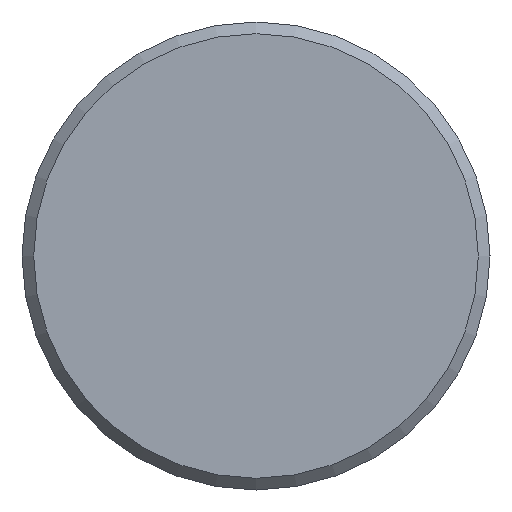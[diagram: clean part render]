
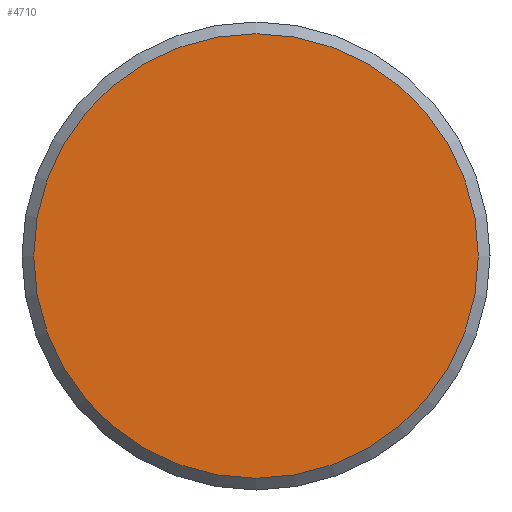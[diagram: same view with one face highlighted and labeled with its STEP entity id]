
A CAD part, left-side view. The second image highlights one B-rep face of the part: STEP entity #4710.
In plain terms, the highlighted planar face has unit normal (-1, 0, 0).
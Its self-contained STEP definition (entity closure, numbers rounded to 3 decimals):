
#1717=PLANE('',#4360);
#1781=ORIENTED_EDGE('',*,*,#2417,.F.);
#2097=CIRCLE('',#4359,9.5);
#2257=VERTEX_POINT('',#3876);
#2417=EDGE_CURVE('',#2257,#2257,#2097,.T.);
#2581=EDGE_LOOP('',(#1781));
#2901=FACE_BOUND('',#2581,.T.);
#3228=DIRECTION('',(1.,0.,0.));
#3229=DIRECTION('',(0.,-9.5,0.));
#3230=DIRECTION('',(-1.,0.,0.));
#3231=DIRECTION('',(0.,1.,0.));
#3876=CARTESIAN_POINT('',(0.,-9.5,0.));
#3877=CARTESIAN_POINT('',(0.,0.,0.));
#3878=CARTESIAN_POINT('',(0.,0.,0.));
#4359=AXIS2_PLACEMENT_3D('',#3877,#3228,#3229);
#4360=AXIS2_PLACEMENT_3D('',#3878,#3230,#3231);
#4710=ADVANCED_FACE('',(#2901),#1717,.T.);
